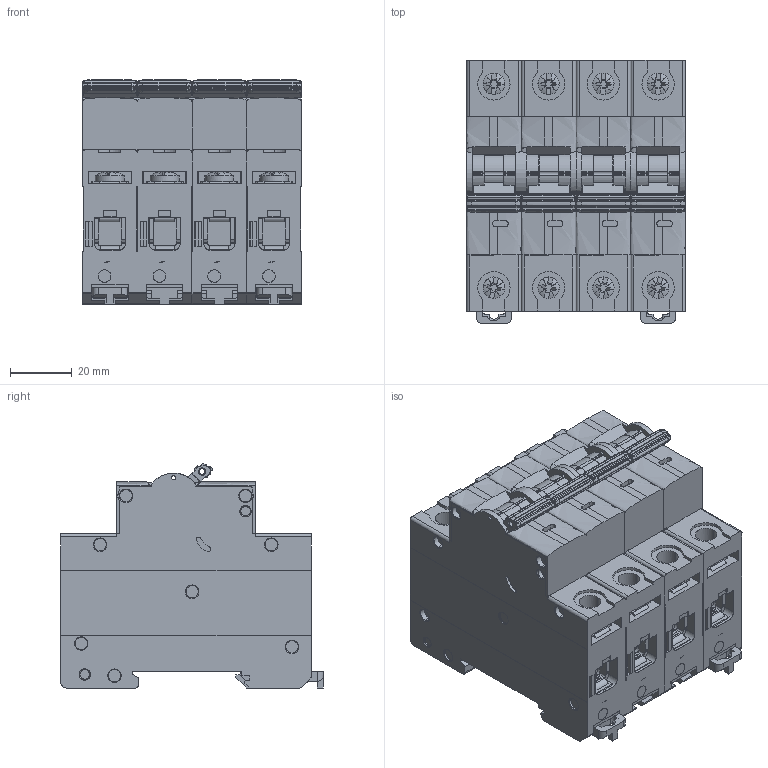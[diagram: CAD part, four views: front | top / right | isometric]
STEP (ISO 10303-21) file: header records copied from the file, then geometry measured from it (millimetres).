
FILE_DESCRIPTION (( 'STEP AP214' ), '1' );
FILE_NAME ('4P.STEP', '2026-07-03T10:10:39', ( '' ), ( '' ), 'SwSTEP 2.0', 'SolidWorks 2022', '' );
FILE_SCHEMA (( 'AUTOMOTIVE_DESIGN' ));
Length unit declared in the file: millimetre
Products named in the file (1): 4P
Bounding box: 71.2 x 85.45 x 72.89 mm (x, y, z)
Volume: 312971.1 mm3; surface area: 56707.7 mm2
Topology: 1 solids, 162 shells, 5419 faces, 14793 edges, 9515 vertices
Faces by surface type: plane 3776, cylinder 1008, bspline 244, cone 234, torus 139, sphere 18
Entity records: 241376 total; most frequent: CARTESIAN_POINT 49262, ORIENTED_EDGE 29496, DIRECTION 26563, EDGE_CURVE 14748, LINE 10617, VECTOR 10617, VERTEX_POINT 9515, AXIS2_PLACEMENT_3D 7973
